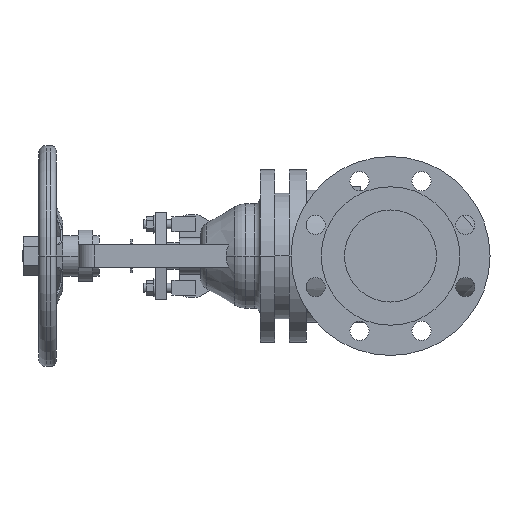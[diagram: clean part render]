
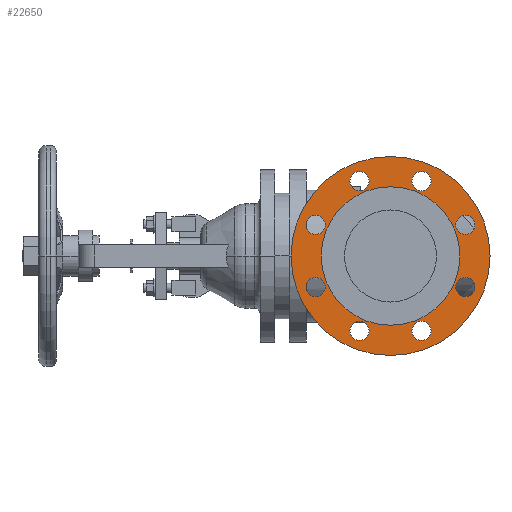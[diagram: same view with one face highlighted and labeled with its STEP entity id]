
A CAD part, left-side view. The second image highlights one B-rep face of the part: STEP entity #22650.
In plain terms, the highlighted planar face has unit normal (-1, 0, 0).
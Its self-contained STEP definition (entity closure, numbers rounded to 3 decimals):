
#10720=CARTESIAN_POINT('',(3.,0.,-135.));
#10730=VERTEX_POINT('',#10720);
#10760=CARTESIAN_POINT('',(3.,0.,0.));
#10770=DIRECTION('',(1.,0.,0.));
#10780=DIRECTION('',(0.,0.,-1.));
#10790=AXIS2_PLACEMENT_3D('',#10760,#10770,#10780);
#10800=CIRCLE('',#10790,135.);
#10810=CARTESIAN_POINT('',(3.,0.,135.));
#10820=VERTEX_POINT('',#10810);
#10830=EDGE_CURVE('',#10820,#10730,#10800,.T.);
#11210=CARTESIAN_POINT('',(3.,42.095,-114.627));
#11220=VERTEX_POINT('',#11210);
#11380=CARTESIAN_POINT('',(3.,42.095,-88.627));
#11390=VERTEX_POINT('',#11380);
#11420=CARTESIAN_POINT('',(3.,42.095,-101.627));
#11430=DIRECTION('',(-1.,0.,0.));
#11440=DIRECTION('',(0.,0.,-1.));
#11450=AXIS2_PLACEMENT_3D('',#11420,#11430,#11440);
#11460=CIRCLE('',#11450,13.);
#11470=EDGE_CURVE('',#11220,#11390,#11460,.T.);
#11700=CARTESIAN_POINT('',(3.,-42.095,-88.627));
#11710=VERTEX_POINT('',#11700);
#11740=CARTESIAN_POINT('',(3.,-42.095,-101.627));
#11750=DIRECTION('',(-1.,0.,0.));
#11760=DIRECTION('',(0.,0.,-1.));
#11770=AXIS2_PLACEMENT_3D('',#11740,#11750,#11760);
#11780=CIRCLE('',#11770,13.);
#11790=CARTESIAN_POINT('',(3.,-42.095,-114.627));
#11800=VERTEX_POINT('',#11790);
#11810=EDGE_CURVE('',#11800,#11710,#11780,.T.);
#12190=CARTESIAN_POINT('',(3.,101.627,-29.095));
#12200=VERTEX_POINT('',#12190);
#12230=CARTESIAN_POINT('',(3.,101.627,-42.095));
#12240=DIRECTION('',(-1.,0.,0.));
#12250=DIRECTION('',(0.,0.,-1.));
#12260=AXIS2_PLACEMENT_3D('',#12230,#12240,#12250);
#12270=CIRCLE('',#12260,13.);
#12280=CARTESIAN_POINT('',(3.,101.627,-55.095));
#12290=VERTEX_POINT('',#12280);
#12300=EDGE_CURVE('',#12290,#12200,#12270,.T.);
#12680=CARTESIAN_POINT('',(3.,-101.627,-55.095));
#12690=VERTEX_POINT('',#12680);
#12720=CARTESIAN_POINT('',(3.,-101.627,-42.095));
#12730=DIRECTION('',(-1.,0.,0.));
#12740=DIRECTION('',(0.,0.,-1.));
#12750=AXIS2_PLACEMENT_3D('',#12720,#12730,#12740);
#12760=CIRCLE('',#12750,13.);
#12770=CARTESIAN_POINT('',(3.,-101.627,-29.095));
#12780=VERTEX_POINT('',#12770);
#12790=EDGE_CURVE('',#12780,#12690,#12760,.T.);
#13170=CARTESIAN_POINT('',(3.,101.627,29.095));
#13180=VERTEX_POINT('',#13170);
#13340=CARTESIAN_POINT('',(3.,101.627,55.095));
#13350=VERTEX_POINT('',#13340);
#13380=CARTESIAN_POINT('',(3.,101.627,42.095));
#13390=DIRECTION('',(-1.,0.,0.));
#13400=DIRECTION('',(0.,0.,-1.));
#13410=AXIS2_PLACEMENT_3D('',#13380,#13390,#13400);
#13420=CIRCLE('',#13410,13.);
#13430=EDGE_CURVE('',#13180,#13350,#13420,.T.);
#13660=CARTESIAN_POINT('',(3.,-101.627,55.095));
#13670=VERTEX_POINT('',#13660);
#13700=CARTESIAN_POINT('',(3.,-101.627,42.095));
#13710=DIRECTION('',(-1.,0.,0.));
#13720=DIRECTION('',(0.,0.,-1.));
#13730=AXIS2_PLACEMENT_3D('',#13700,#13710,#13720);
#13740=CIRCLE('',#13730,13.);
#13750=CARTESIAN_POINT('',(3.,-101.627,29.095));
#13760=VERTEX_POINT('',#13750);
#13770=EDGE_CURVE('',#13760,#13670,#13740,.T.);
#14150=CARTESIAN_POINT('',(3.,42.095,114.627));
#14160=VERTEX_POINT('',#14150);
#14190=CARTESIAN_POINT('',(3.,42.095,101.627));
#14200=DIRECTION('',(-1.,0.,0.));
#14210=DIRECTION('',(0.,0.,-1.));
#14220=AXIS2_PLACEMENT_3D('',#14190,#14200,#14210);
#14230=CIRCLE('',#14220,13.);
#14240=CARTESIAN_POINT('',(3.,42.095,88.627));
#14250=VERTEX_POINT('',#14240);
#14260=EDGE_CURVE('',#14250,#14160,#14230,.T.);
#14640=CARTESIAN_POINT('',(3.,-42.095,88.627));
#14650=VERTEX_POINT('',#14640);
#14680=CARTESIAN_POINT('',(3.,-42.095,101.627));
#14690=DIRECTION('',(-1.,0.,0.));
#14700=DIRECTION('',(0.,0.,-1.));
#14710=AXIS2_PLACEMENT_3D('',#14680,#14690,#14700);
#14720=CIRCLE('',#14710,13.);
#14730=CARTESIAN_POINT('',(3.,-42.095,114.627));
#14740=VERTEX_POINT('',#14730);
#14750=EDGE_CURVE('',#14740,#14650,#14720,.T.);
#15130=CARTESIAN_POINT('',(3.,-94.,0.));
#15140=VERTEX_POINT('',#15130);
#15300=CARTESIAN_POINT('',(3.,94.,0.));
#15310=VERTEX_POINT('',#15300);
#15340=CARTESIAN_POINT('',(3.,0.,0.));
#15350=DIRECTION('',(-1.,0.,0.));
#15360=DIRECTION('',(0.,1.,0.));
#15370=AXIS2_PLACEMENT_3D('',#15340,#15350,#15360);
#15380=CIRCLE('',#15370,94.);
#15390=EDGE_CURVE('',#15140,#15310,#15380,.T.);
#22100=CARTESIAN_POINT('',(3.,114.5,0.));
#22110=DIRECTION('',(1.,0.,0.));
#22120=DIRECTION('',(0.,-1.,0.));
#22130=AXIS2_PLACEMENT_3D('',#22100,#22110,#22120);
#22140=PLANE('',#22130);
#22150=EDGE_CURVE('',#15310,#15140,#15380,.T.);
#22160=ORIENTED_EDGE('',*,*,#22150,.F.);
#22170=ORIENTED_EDGE('',*,*,#15390,.F.);
#22180=EDGE_LOOP('',(#22170,#22160));
#22190=FACE_BOUND('',#22180,.T.);
#22200=ORIENTED_EDGE('',*,*,#10830,.F.);
#22210=EDGE_CURVE('',#10730,#10820,#10800,.T.);
#22220=ORIENTED_EDGE('',*,*,#22210,.F.);
#22230=EDGE_LOOP('',(#22220,#22200));
#22240=FACE_OUTER_BOUND('',#22230,.T.);
#22250=EDGE_CURVE('',#11390,#11220,#11460,.T.);
#22260=ORIENTED_EDGE('',*,*,#22250,.F.);
#22270=ORIENTED_EDGE('',*,*,#11470,.F.);
#22280=EDGE_LOOP('',(#22270,#22260));
#22290=FACE_BOUND('',#22280,.T.);
#22300=ORIENTED_EDGE('',*,*,#11810,.F.);
#22310=EDGE_CURVE('',#11710,#11800,#11780,.T.);
#22320=ORIENTED_EDGE('',*,*,#22310,.F.);
#22330=EDGE_LOOP('',(#22320,#22300));
#22340=FACE_BOUND('',#22330,.T.);
#22350=ORIENTED_EDGE('',*,*,#12300,.F.);
#22360=EDGE_CURVE('',#12200,#12290,#12270,.T.);
#22370=ORIENTED_EDGE('',*,*,#22360,.F.);
#22380=EDGE_LOOP('',(#22370,#22350));
#22390=FACE_BOUND('',#22380,.T.);
#22400=ORIENTED_EDGE('',*,*,#12790,.F.);
#22410=EDGE_CURVE('',#12690,#12780,#12760,.T.);
#22420=ORIENTED_EDGE('',*,*,#22410,.F.);
#22430=EDGE_LOOP('',(#22420,#22400));
#22440=FACE_BOUND('',#22430,.T.);
#22450=EDGE_CURVE('',#13350,#13180,#13420,.T.);
#22460=ORIENTED_EDGE('',*,*,#22450,.F.);
#22470=ORIENTED_EDGE('',*,*,#13430,.F.);
#22480=EDGE_LOOP('',(#22470,#22460));
#22490=FACE_BOUND('',#22480,.T.);
#22500=ORIENTED_EDGE('',*,*,#13770,.F.);
#22510=EDGE_CURVE('',#13670,#13760,#13740,.T.);
#22520=ORIENTED_EDGE('',*,*,#22510,.F.);
#22530=EDGE_LOOP('',(#22520,#22500));
#22540=FACE_BOUND('',#22530,.T.);
#22550=EDGE_CURVE('',#14160,#14250,#14230,.T.);
#22560=ORIENTED_EDGE('',*,*,#22550,.F.);
#22570=ORIENTED_EDGE('',*,*,#14260,.F.);
#22580=EDGE_LOOP('',(#22570,#22560));
#22590=FACE_BOUND('',#22580,.T.);
#22600=EDGE_CURVE('',#14650,#14740,#14720,.T.);
#22610=ORIENTED_EDGE('',*,*,#22600,.F.);
#22620=ORIENTED_EDGE('',*,*,#14750,.F.);
#22630=EDGE_LOOP('',(#22620,#22610));
#22640=FACE_BOUND('',#22630,.T.);
#22650=ADVANCED_FACE('',(#22190,#22240,#22290,#22340,#22390,#22440,
#22490,#22540,#22590,#22640),#22140,.F.);
